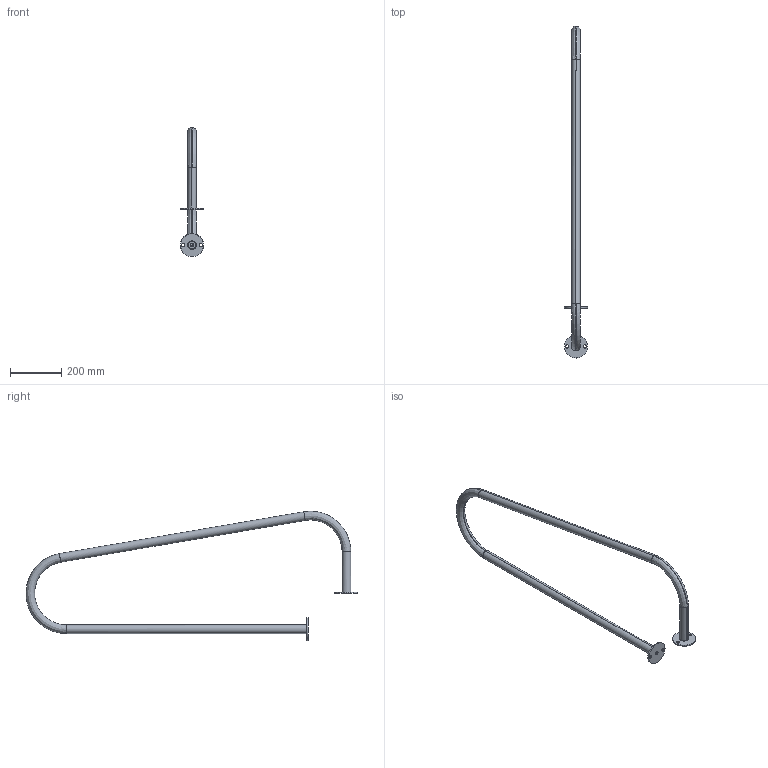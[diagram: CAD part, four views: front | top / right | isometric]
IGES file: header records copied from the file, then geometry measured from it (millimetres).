
Start section:  PTC IGES file: 100084-600.igs
Global section: file name: 100084-600.igs; native system: Creo Parametric by Parametric Technology Corporation; preprocessor: 2017170; author: stat; organization: Unknown; date: 20181127.090333; units: millimetre
Bounding box: 90 x 1294.85 x 505 mm (x, y, z)
Surface area: 569876.2 mm2 (no closed solid volume)
Topology: 0 solids, 0 shells, 42 faces, 184 edges, 184 vertices
Faces by surface type: revolution 36, bspline 6
